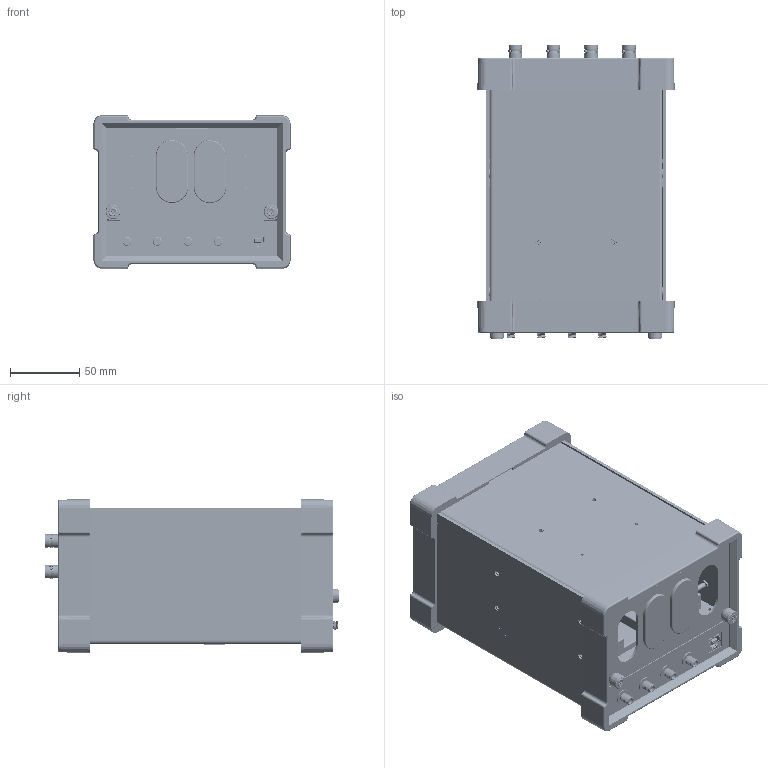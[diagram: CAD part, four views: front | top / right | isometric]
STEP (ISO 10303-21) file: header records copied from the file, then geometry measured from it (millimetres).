
FILE_DESCRIPTION((''),'2;1');
FILE_NAME('CVIV_ASM','2016-02-19T',('rrich'),('Keithley Instruments'),'CREO PARAMETRIC BY PTC INC, 2014440','CREO PARAMETRIC BY PTC INC, 2014440','');
FILE_SCHEMA(('CONFIG_CONTROL_DESIGN'));
Length unit declared in the file: inch
Products named in the file (49): 2005355; BSOS-440-12; RAS-440-9-4; BS-440-2; TM8074; 2005355_ASM; 2603024_AF0; TM8073-A; 2603024_AF1_ASM; 2101647; CS-1136-WASHER-NUTLESS; CS-1032; 8781121_ASM; 1198143; MAIN-BOARD-DISPLAY_ASM; 3867891; CS-995-ROTATED-NUT; CS-1006; 8781123_ASM; OUTPUT-CARDS_ASM; 3334772; TM8075; FH-440-5; BS-632-2; 3334772_ASM; 3867890; CVIV-FRONT-ASSEM_ASM; 6-32X3-8PPHSEM; 3867849; S-440-0; 3867849_ASM; 2111595; 3511152; CARD-GUIDE-SUPPORT-BRACKET_ASM; 4412838; AS-440-1; 4412838_ASM; CVIV-CHASSIS-CARD-GUIDE_ASM; 3334771; SOUTHCO-47-12-122-14_KNOB_100_S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
Assembly tree (98 placements, depth 4):
  CVIV_ASM
    2005355_ASM
      2005355
      BSOS-440-12  x3
      RAS-440-9-4  x6
      BS-440-2  x8
      TM8074
    2603024_AF1_ASM
      2603024_AF0
      TM8073-A
    2101647  x8
    MAIN-BOARD-DISPLAY_ASM
      8781121_ASM
        CS-1136-WASHER-NUTLESS  x4
        CS-1032
      1198143
    OUTPUT-CARDS_ASM
      3867891
      8781123_ASM  x4
        CS-995-ROTATED-NUT
        CS-1006
    CVIV-FRONT-ASSEM_ASM
      3334772_ASM
        3334772
        TM8075
        FH-440-5  x2
        BS-632-2  x2
        RAS-440-9-4  x4
      3867890
    6-32X3-8PPHSEM  x2
    CARD-GUIDE-SUPPORT-BRACKET_ASM
      3867849_ASM
        3867849
        S-440-0  x2
      2111595  x2
      3511152
    CVIV-CHASSIS-CARD-GUIDE_ASM
      4412838_ASM
        4412838
        AS-440-1  x4
        BS-440-2  x4
      3511152
      2111595  x2
    3334771_ASM
      3334771
      SOUTHCO-47-12-122-14_ASM  x2
        SOUTHCO-47-12-122-14_KNOB_100_S
        SOUTHCO-47-12-122-14_FERRULE_4-
        SOUTHCO-47-12-122-14_4-40_SCREW
      TM8076
    3482182  x2
    2145435
    2145435-SNAP-IN
Bounding box: 142.04 x 211.19 x 110.74 mm (x, y, z)
Volume: 481437.2 mm3; surface area: 506908.6 mm2
Topology: 87 solids, 91 shells, 6800 faces, 18214 edges, 11918 vertices
Faces by surface type: plane 3707, cylinder 2079, cone 420, bspline 374, torus 152, sphere 66, extrusion 2
Entity records: 104282 total; most frequent: CARTESIAN_POINT 32761, ORIENTED_EDGE 14799, DIRECTION 14135, EDGE_CURVE 7521, VECTOR 5031, LINE 5029, VERTEX_POINT 4869, AXIS2_PLACEMENT_3D 4552
